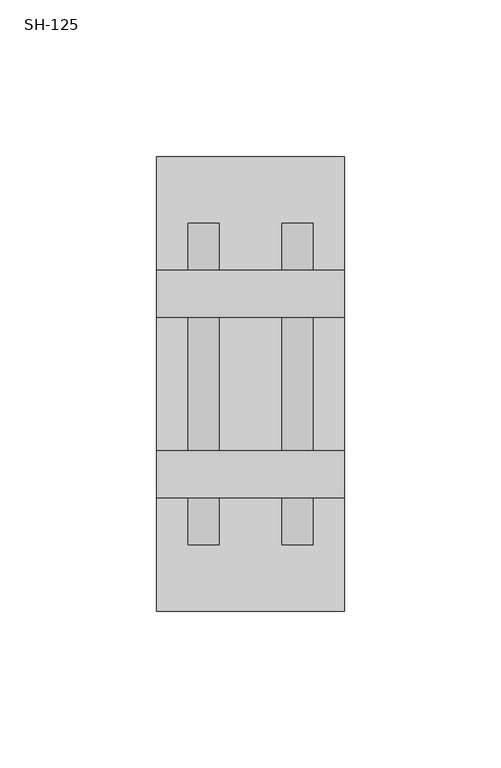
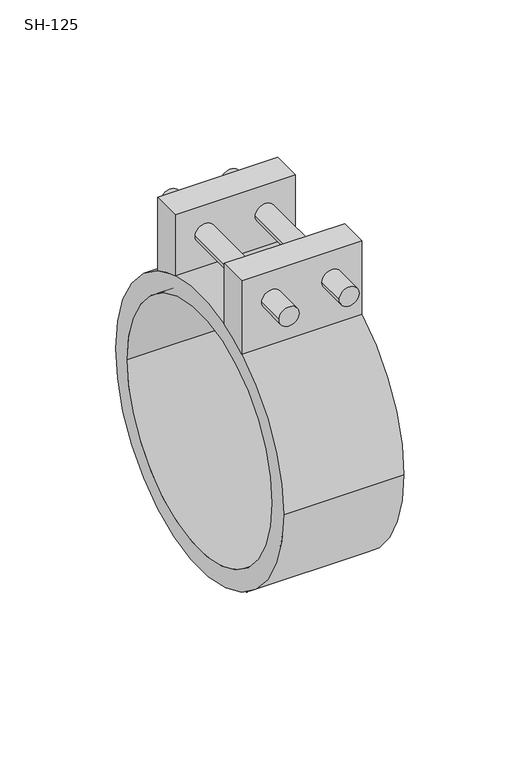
"""IFC4 building model written with IfcOpenShell, lengths in millimetres: duct fitting geometry, СВ_Хомут_Круглый_DN100-315_SH : SH-125."""

from ifc_helpers import new_model, si_unit, point, frame, origin, origin_2d, place, context, project, spatial, polyline, circle_curve, trimmed, segment, composite_curve, outline, extrude, source, transform, mapped, element, save
from ifc_brep_helpers import plane_surface, cylinder_surface, revolved_surface, advanced_brep


def sh_125_658f0c97(model_context):
    return source(origin(), model_context, "Body", "SolidModel", [
        advanced_brep(
        [(30.0, 36.25, 101.5), (30.0, 21.25, 101.5), (30.0, 21.25, 69.3158532), (30.0, 36.25, 62.7868418), (30.0, -21.25, 101.5), (30.0, -36.25, 101.5), (30.0, -36.25, 62.7868418), (30.0, -21.25, 69.3158532), (-30.0, 21.25, 101.5), (-30.0, 36.25, 101.5), (-30.0, 36.25, 62.7868418), (-30.0, 21.25, 69.3158532), (-30.0, -36.25, 101.5), (-30.0, -21.25, 101.5), (-30.0, -21.25, 69.3158532), (-30.0, -36.25, 62.7868418), (-20.0, 36.25, 86.5), (-10.0, 36.25, 86.5), (10.0, 36.25, 86.5), (20.0, 36.25, 86.5), (-10.0, 21.25, 86.5), (-20.0, 21.25, 86.5), (20.0, 21.25, 86.5), (10.0, 21.25, 86.5), (-20.0, -21.25, 86.5), (-10.0, -21.25, 86.5), (10.0, -21.25, 86.5), (20.0, -21.25, 86.5), (-10.0, -36.25, 86.5), (-20.0, -36.25, 86.5), (20.0, -36.25, 86.5), (10.0, -36.25, 86.5), (-20.0, -51.25, 86.5), (-10.0, -51.25, 86.5), (10.0, -51.25, 86.5), (20.0, -51.25, 86.5), (-20.0, 51.25, 86.5), (-10.0, 51.25, 86.5), (10.0, 51.25, 86.5), (20.0, 51.25, 86.5)],
        [
            (0, 1),
            (1, 2),
            (2, 3, circle_curve(frame((30.0, 0.0, 0.0), z_axis=(-1.0, 0.0, 0.0), x_axis=(0.0, 1.0, 0.0)), 72.5)),
            (3, 0),
            (4, 5),
            (5, 6),
            (6, 7, circle_curve(frame((30.0, 0.0, 0.0), z_axis=(-1.0, 0.0, 0.0), x_axis=(0.0, 1.0, 0.0)), 72.5)),
            (7, 4),
            (8, 9),
            (9, 10),
            (10, 11, circle_curve(frame((-30.0, 0.0, 0.0), z_axis=(1.0, 0.0, 0.0), x_axis=(0.0, 1.0, 0.0)), 72.5)),
            (11, 8),
            (12, 13),
            (13, 14),
            (14, 15, circle_curve(frame((-30.0, 0.0, 0.0), z_axis=(1.0, 0.0, 0.0), x_axis=(0.0, 1.0, 0.0)), 72.5)),
            (15, 12),
            (9, 0),
            (3, 10),
            (16, 17, circle_curve(frame((-15.0, 36.25, 86.5), z_axis=(0.0, -1.0, 0.0), x_axis=(1.0, 0.0, 0.0)), 5.0)),
            (17, 16, circle_curve(frame((-15.0, 36.25, 86.5), z_axis=(0.0, -1.0, 0.0), x_axis=(1.0, 0.0, 0.0)), 5.0)),
            (18, 19, circle_curve(frame((15.0, 36.25, 86.5), z_axis=(0.0, -1.0, 0.0), x_axis=(1.0, 0.0, 0.0)), 5.0)),
            (19, 18, circle_curve(frame((15.0, 36.25, 86.5), z_axis=(0.0, -1.0, 0.0), x_axis=(1.0, 0.0, 0.0)), 5.0)),
            (8, 1),
            (11, 2),
            (20, 21, circle_curve(frame((-15.0, 21.25, 86.5), z_axis=(0.0, 1.0, 0.0), x_axis=(1.0, 0.0, 0.0)), 5.0)),
            (21, 20, circle_curve(frame((-15.0, 21.25, 86.5), z_axis=(0.0, 1.0, 0.0), x_axis=(1.0, 0.0, 0.0)), 5.0)),
            (22, 23, circle_curve(frame((15.0, 21.25, 86.5), z_axis=(0.0, 1.0, 0.0), x_axis=(1.0, 0.0, 0.0)), 5.0)),
            (23, 22, circle_curve(frame((15.0, 21.25, 86.5), z_axis=(0.0, 1.0, 0.0), x_axis=(1.0, 0.0, 0.0)), 5.0)),
            (13, 4),
            (7, 14),
            (24, 25, circle_curve(frame((-15.0, -21.25, 86.5), z_axis=(0.0, -1.0, 0.0), x_axis=(1.0, 0.0, 0.0)), 5.0)),
            (25, 24, circle_curve(frame((-15.0, -21.25, 86.5), z_axis=(0.0, -1.0, 0.0), x_axis=(1.0, 0.0, 0.0)), 5.0)),
            (26, 27, circle_curve(frame((15.0, -21.25, 86.5), z_axis=(0.0, -1.0, 0.0), x_axis=(1.0, 0.0, 0.0)), 5.0)),
            (27, 26, circle_curve(frame((15.0, -21.25, 86.5), z_axis=(0.0, -1.0, 0.0), x_axis=(1.0, 0.0, 0.0)), 5.0)),
            (12, 5),
            (15, 6),
            (28, 29, circle_curve(frame((-15.0, -36.25, 86.5), z_axis=(0.0, 1.0, 0.0), x_axis=(1.0, 0.0, 0.0)), 5.0)),
            (29, 28, circle_curve(frame((-15.0, -36.25, 86.5), z_axis=(0.0, 1.0, 0.0), x_axis=(1.0, 0.0, 0.0)), 5.0)),
            (30, 31, circle_curve(frame((15.0, -36.25, 86.5), z_axis=(0.0, 1.0, 0.0), x_axis=(1.0, 0.0, 0.0)), 5.0)),
            (31, 30, circle_curve(frame((15.0, -36.25, 86.5), z_axis=(0.0, 1.0, 0.0), x_axis=(1.0, 0.0, 0.0)), 5.0)),
            (32, 33, circle_curve(frame((-15.0, -51.25, 86.5), z_axis=(0.0, -1.0, 0.0), x_axis=(1.0, 0.0, 0.0)), 5.0)),
            (33, 32, circle_curve(frame((-15.0, -51.25, 86.5), z_axis=(0.0, -1.0, 0.0), x_axis=(1.0, 0.0, 0.0)), 5.0)),
            (34, 35, circle_curve(frame((15.0, -51.25, 86.5), z_axis=(0.0, -1.0, 0.0), x_axis=(1.0, 0.0, 0.0)), 5.0)),
            (35, 34, circle_curve(frame((15.0, -51.25, 86.5), z_axis=(0.0, -1.0, 0.0), x_axis=(1.0, 0.0, 0.0)), 5.0)),
            (36, 37, circle_curve(frame((-15.0, 51.25, 86.5), z_axis=(0.0, 1.0, 0.0), x_axis=(1.0, 0.0, 0.0)), 5.0)),
            (37, 36, circle_curve(frame((-15.0, 51.25, 86.5), z_axis=(0.0, 1.0, 0.0), x_axis=(1.0, 0.0, 0.0)), 5.0)),
            (38, 39, circle_curve(frame((15.0, 51.25, 86.5), z_axis=(0.0, 1.0, 0.0), x_axis=(1.0, 0.0, 0.0)), 5.0)),
            (39, 38, circle_curve(frame((15.0, 51.25, 86.5), z_axis=(0.0, 1.0, 0.0), x_axis=(1.0, 0.0, 0.0)), 5.0)),
            (32, 29),
            (28, 33),
            (37, 17),
            (16, 36),
            (24, 21),
            (20, 25),
            (34, 31),
            (30, 35),
            (39, 19),
            (18, 38),
            (26, 23),
            (22, 27),
        ],
        [
            plane_surface(frame((30.0, 36.25, 101.5), z_axis=(1.0, 0.0, 0.0), x_axis=(0.0, 0.0, 1.0))),
            plane_surface(frame((-30.0, 36.25, 101.5), z_axis=(-1.0, 0.0, 0.0), x_axis=(0.0, 0.0, -1.0))),
            plane_surface(frame((30.0, 36.25, 0.0), z_axis=(0.0, 1.0, 0.0), x_axis=(-1.0, 0.0, 0.0))),
            plane_surface(frame((30.0, 36.25, 101.5), z_axis=(0.0, 0.0, 1.0), x_axis=(-1.0, 0.0, 0.0))),
            plane_surface(frame((30.0, 21.25, 101.5), z_axis=(0.0, -1.0, 0.0), x_axis=(-1.0, 0.0, 0.0))),
            plane_surface(frame((30.0, -21.25, 0.0), z_axis=(0.0, 1.0, 0.0), x_axis=(-1.0, 0.0, 0.0))),
            plane_surface(frame((30.0, -21.25, 101.5), z_axis=(0.0, 0.0, 1.0), x_axis=(-1.0, 0.0, 0.0))),
            plane_surface(frame((30.0, -36.25, 101.5), z_axis=(0.0, -1.0, 0.0), x_axis=(-1.0, 0.0, 0.0))),
            revolved_surface(polyline([(30.0, 72.5, 0.0), (-30.0, 72.5, 0.0)]), (-30.0, 0.0, 0.0), (1.0, 0.0, 0.0)),
            plane_surface(frame((-10.0, -51.25, 86.5), z_axis=(0.0, -1.0, 0.0), x_axis=(0.0, 0.0, 1.0))),
            plane_surface(frame((-10.0, 51.25, 86.5), z_axis=(0.0, 1.0, 0.0), x_axis=(0.0, 0.0, -1.0))),
            cylinder_surface(frame((-15.0, 51.25, 86.5), z_axis=(0.0, -1.0, 0.0), x_axis=(1.0, 0.0, 0.0)), 5.0),
            cylinder_surface(frame((15.0, 0.0, 86.5), z_axis=(0.0, -1.0, 0.0), x_axis=(1.0, 0.0, 0.0)), 5.0),
        ],
        [
            (0, [[1, 2, 3, 4]]),
            (0, [[5, 6, 7, 8]]),
            (1, [[9, 10, 11, 12]]),
            (1, [[13, 14, 15, 16]]),
            (2, [[17, -4, 18, -10], [19, 20], [21, 22]]),
            (3, [[-1, -17, -9, 23]]),
            (4, [[-23, -12, 24, -2], [25, 26], [27, 28]]),
            (5, [[29, -8, 30, -14], [31, 32], [33, 34]]),
            (6, [[-5, -29, -13, 35]]),
            (7, [[-35, -16, 36, -6], [37, 38], [39, 40]]),
            (8, [[-3, -24, -11, -18]]),
            (8, [[-7, -36, -15, -30]]),
            (9, [[41, 42]]),
            (9, [[43, 44]]),
            (10, [[45, 46]]),
            (10, [[47, 48]]),
            (11, [[-41, 49, -37, 50]]),
            (11, [[-46, 51, -19, 52]]),
            (11, [[53, -25, 54, -31]]),
            (11, [[-42, -50, -38, -49]]),
            (11, [[-45, -52, -20, -51]]),
            (11, [[-53, -32, -54, -26]]),
            (12, [[-43, 55, -39, 56]]),
            (12, [[-48, 57, -21, 58]]),
            (12, [[59, -27, 60, -33]]),
            (12, [[-44, -56, -40, -55]]),
            (12, [[-47, -58, -22, -57]]),
            (12, [[-59, -34, -60, -28]]),
        ],
    ),
        extrude(outline(composite_curve([segment(trimmed(circle_curve(origin_2d(), 72.5), [point((-72.5, 0.0))], [point((72.5, 0.0))], False, "CARTESIAN"), True, "CONTINUOUS"), segment(trimmed(circle_curve(origin_2d(), 72.5), [point((72.5, 0.0))], [point((-72.5, 0.0))], False, "CARTESIAN"), True, "CONTINUOUS")], self_intersect=False), holes=[composite_curve([segment(trimmed(circle_curve(origin_2d(), 62.5), [point((-62.5, 0.0))], [point((62.5, 0.0))], True, "CARTESIAN"), True, "CONTINUOUS"), segment(trimmed(circle_curve(origin_2d(), 62.5), [point((62.5, 0.0))], [point((-62.5, 0.0))], True, "CARTESIAN"), True, "CONTINUOUS")], self_intersect=False)]), frame((-30.0, 0.0, 0.0), z_axis=(1.0, 0.0, 0.0), x_axis=(0.0, 1.0, 0.0)), (0.0, 0.0, 1.0), 60.0),
    ])


if __name__ == "__main__":
    model = new_model("IFC4")
    model_context = context("Model", 3, world=origin())
    ifc_project = project(units=[si_unit("LENGTHUNIT", "METRE", prefix="MILLI")], contexts=[model_context])
    site = spatial("IfcSite", under=ifc_project)
    building = spatial("IfcBuilding", under=site)
    placement = place(None, origin())
    sh_125_shape = sh_125_658f0c97(model_context)
    element("IfcDuctFitting", 1, ObjectType="СВ_Хомут_Круглый_DN100-315_SH : SH-125", at=placement, inside=building, context=model_context, shape_type="MappedRepresentation", body=[
        mapped(sh_125_shape, transform((0.0, 0.0, 0.0), x_axis=(1.0, 0.0, 0.0), y_axis=(0.0, 1.0, 0.0), z_axis=(0.0, 0.0, 1.0))),
    ])
    save(model, "model.ifc")
